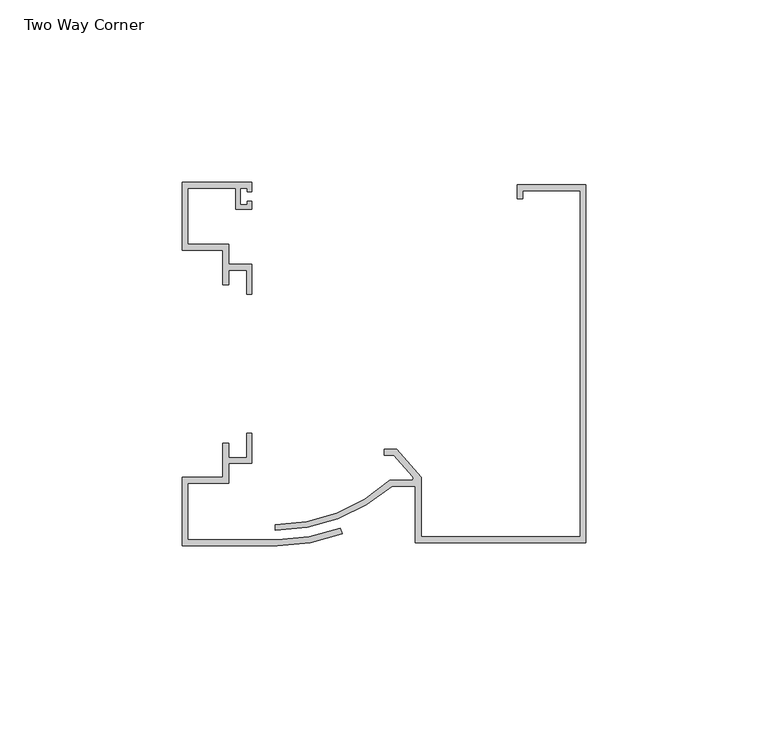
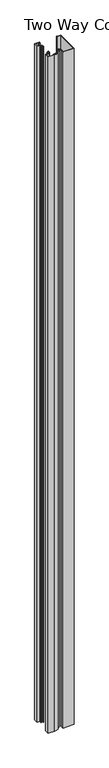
"""IFC4 building model written with IfcOpenShell, lengths in millimetres: proxy geometry, Connection-Variable_Angle-Teknion-Altos-Two_Way_FKCA2 : Two Way Corner."""

import ifcopenshell
import ifcopenshell.guid

model = None  # the IFC model being written
_history = None  # IfcOwnerHistory: only IFC2X3 demands one
_inside = {}  # id of a spatial element -> (the spatial element, [elements in it])
_under = {}  # id of a project, library or spatial element -> (it, [spatial elements below it])
_declared = {}  # id of a project -> (the project, [libraries it declares])
_typed = {}  # id of a type object -> (the type object, [elements of that type])
_made_of = {}  # id of a material, layer set ... -> (it, [elements and type objects made of it])


def new_model(schema):
    """Start an empty IFC model of exactly this schema.

    Asked for "IFC4X3", IfcOpenShell would pick the latest addendum, in which some entities
    have other attributes; the version numbers below select the first issue.
    IFC2X3 requires an IfcOwnerHistory on every rooted entity: one is made here for all.
    """
    global model, _history
    if schema == "IFC4X3":
        model = ifcopenshell.file(schema_version=(4, 3, 0, 0))
    else:
        model = ifcopenshell.file(schema=schema)
    _inside.clear()
    _under.clear()
    _declared.clear()
    _typed.clear()
    _made_of.clear()
    _history = None
    if model.schema == "IFC2X3":
        org = make("IfcOrganization", Name="unknown")
        user = make(
            "IfcPersonAndOrganization",
            ThePerson=make("IfcPerson", FamilyName="unknown"),
            TheOrganization=org,
        )
        app = make(
            "IfcApplication",
            ApplicationDeveloper=org,
            Version="unknown",
            ApplicationFullName="unknown",
            ApplicationIdentifier="unknown",
        )
        _history = make(
            "IfcOwnerHistory",
            OwningUser=user,
            OwningApplication=app,
            ChangeAction="ADDED",
            CreationDate=0,
        )
    return model


def make(cls, **values):
    """One entity of the class cls with the attributes given. An attribute that is None is left unset."""
    return model.create_entity(
        cls, **{name: value for name, value in values.items() if value is not None}
    )


def rooted(cls, **values):
    """An entity with a GlobalId (a new one), such as an element, a storey or a relation."""
    return make(cls, GlobalId=ifcopenshell.guid.new(), OwnerHistory=_history, **values)


def si_unit(unit_type, name, prefix=None):
    """IfcSIUnit, for example si_unit("LENGTHUNIT", "METRE", prefix="MILLI")."""
    return make("IfcSIUnit", UnitType=unit_type, Prefix=prefix, Name=name)


def assignment(units):
    """IfcUnitAssignment: the units of a project."""
    return None if units is None else make("IfcUnitAssignment", Units=units)


def point(xyz):
    """IfcCartesianPoint."""
    return None if xyz is None else make("IfcCartesianPoint", Coordinates=xyz)


def direction(xyz):
    """IfcDirection."""
    return None if xyz is None else make("IfcDirection", DirectionRatios=xyz)


def frame(location, z_axis=None, x_axis=None):
    """IfcAxis2Placement3D, a coordinate frame: its origin and axes. An axis left out is left unset."""
    return make(
        "IfcAxis2Placement3D",
        Location=point(location),
        Axis=direction(z_axis),
        RefDirection=direction(x_axis),
    )


def frame_2d(location, x_axis=None):
    """IfcAxis2Placement2D, a coordinate frame in the plane: its origin and x axis."""
    return make(
        "IfcAxis2Placement2D", Location=point(location), RefDirection=direction(x_axis)
    )


def origin():
    """The frame at (0, 0, 0) with its axes left unset."""
    return frame((0.0, 0.0, 0.0))


def origin_with_axes():
    """The frame at (0, 0, 0) with the z axis (0, 0, 1) and the x axis (1, 0, 0) written out."""
    return frame((0.0, 0.0, 0.0), z_axis=(0.0, 0.0, 1.0), x_axis=(1.0, 0.0, 0.0))


def place(relative_to, where):
    """IfcLocalPlacement: puts the frame where relative to a parent placement (None: the world)."""
    return make(
        "IfcLocalPlacement", PlacementRelTo=relative_to, RelativePlacement=where
    )


def context(
    kind, dimensions, precision=None, world=None, true_north=None, identifier=None
):
    """IfcGeometricRepresentationContext, for example the 3D "Model" context."""
    return make(
        "IfcGeometricRepresentationContext",
        ContextIdentifier=identifier,
        ContextType=kind,
        CoordinateSpaceDimension=dimensions,
        Precision=precision,
        WorldCoordinateSystem=world,
        TrueNorth=true_north,
    )


def project(units=None, contexts=None):
    """IfcProject with its units and contexts."""
    return rooted(
        "IfcProject",
        Name="project",
        RepresentationContexts=contexts,
        UnitsInContext=assignment(units),
    )


def spatial(cls, under=None, at=None, **own):
    """A site, building, storey or space (cls), placed at a placement, below another one or the project."""
    s = rooted(cls, ObjectPlacement=at, **own)
    if under is not None:
        _under.setdefault(under.id(), (under, []))[1].append(s)
    return s


def polyline(points):
    """IfcPolyline through the points."""
    return make("IfcPolyline", Points=[point(p) for p in points])


def circle_curve(where, radius):
    """IfcCircle in the frame where."""
    return make("IfcCircle", Position=where, Radius=radius)


def trimmed(basis, trim1, trim2, sense, master):
    """IfcTrimmedCurve: the piece of a basis curve between two trims."""
    return make(
        "IfcTrimmedCurve",
        BasisCurve=basis,
        Trim1=trim1,
        Trim2=trim2,
        SenseAgreement=sense,
        MasterRepresentation=master,
    )


def segment(curve, same_sense, transition):
    """IfcCompositeCurveSegment."""
    return make(
        "IfcCompositeCurveSegment",
        Transition=transition,
        SameSense=same_sense,
        ParentCurve=curve,
    )


def composite_curve(segments, self_intersect=None):
    """IfcCompositeCurve: segments joined end to end."""
    return make("IfcCompositeCurve", Segments=segments, SelfIntersect=self_intersect)


def outline(outer, holes=None, kind="AREA"):
    """IfcArbitraryClosedProfileDef: a profile drawn as a closed curve; with holes, ...WithVoids."""
    if holes is None:
        return make("IfcArbitraryClosedProfileDef", ProfileType=kind, OuterCurve=outer)
    return make(
        "IfcArbitraryProfileDefWithVoids",
        ProfileType=kind,
        OuterCurve=outer,
        InnerCurves=holes,
    )


def extrude(swept, where, along, depth):
    """IfcExtrudedAreaSolid: the profile swept, set in the frame where, extruded along a direction by depth."""
    return make(
        "IfcExtrudedAreaSolid",
        SweptArea=swept,
        Position=where,
        ExtrudedDirection=direction(along),
        Depth=depth,
    )


def shape(context_of_items, identifier, shape_type, items):
    """IfcShapeRepresentation: the items that make up one representation, for example the "Body"."""
    return make(
        "IfcShapeRepresentation",
        ContextOfItems=context_of_items,
        RepresentationIdentifier=identifier,
        RepresentationType=shape_type,
        Items=items,
    )


def source(mapping_origin, context_of_items, identifier, shape_type, items):
    """IfcRepresentationMap: a shape defined once, which mapped items show again and again."""
    return make(
        "IfcRepresentationMap",
        MappingOrigin=mapping_origin,
        MappedRepresentation=shape(context_of_items, identifier, shape_type, items),
    )


def transform(
    local_origin,
    x_axis=None,
    y_axis=None,
    z_axis=None,
    scale=None,
    scale2=None,
    scale3=None,
    uniform=True,
):
    """IfcCartesianTransformationOperator3D, or its non-uniform kind. x_axis, y_axis, z_axis: its Axis1, 2, 3."""
    if uniform:
        return make(
            "IfcCartesianTransformationOperator3D",
            Axis1=direction(x_axis),
            Axis2=direction(y_axis),
            LocalOrigin=point(local_origin),
            Scale=scale,
            Axis3=direction(z_axis),
        )
    return make(
        "IfcCartesianTransformationOperator3DnonUniform",
        Axis1=direction(x_axis),
        Axis2=direction(y_axis),
        LocalOrigin=point(local_origin),
        Scale=scale,
        Axis3=direction(z_axis),
        Scale2=scale2,
        Scale3=scale3,
    )


def mapped(mapping_source, mapping_target):
    """IfcMappedItem: shows the shape of a source again, moved by a transform."""
    return make(
        "IfcMappedItem", MappingSource=mapping_source, MappingTarget=mapping_target
    )


def made_of(thing, what):
    """Note that an element or type object is made of a material, layer set ...; save() writes the relation."""
    if what is not None:
        _made_of.setdefault(what.id(), (what, []))[1].append(thing)
    return thing


def element(
    cls,
    number,
    at=None,
    inside=None,
    cuts=None,
    type_object=None,
    material=None,
    context=None,
    identifier="Body",
    shape_type=None,
    held_by="IfcProductDefinitionShape",
    body=None,
    shapes=None,
    **own,
):
    """One element of the class cls, such as IfcWall. Its Tag is "e" and its number.

    at: its placement. inside: the storey or other place that contains it. cuts: it is an
    opening in that element (IfcRelVoidsElement). A single representation is given by context,
    identifier, shape_type and body (its items); several are given by shapes. held_by: the class
    of the entity that holds the representations. save() writes the other relations.
    """
    e = rooted(cls, Tag="e%d" % number, ObjectPlacement=at, **own)
    if body is not None:
        shapes = [shape(context, identifier, shape_type, body)]
    if shapes is not None:
        e.Representation = make(held_by, Representations=shapes)
    if inside is not None:
        _inside.setdefault(inside.id(), (inside, []))[1].append(e)
    if cuts is not None:
        rooted(
            "IfcRelVoidsElement", RelatingBuildingElement=cuts, RelatedOpeningElement=e
        )
    if type_object is not None:
        _typed.setdefault(type_object.id(), (type_object, []))[1].append(e)
    return made_of(e, material)


def aggregate(whole, parts):
    """IfcRelAggregates: a whole, such as a stair, and the parts it consists of."""
    return rooted("IfcRelAggregates", RelatingObject=whole, RelatedObjects=parts)


def save(model, path):
    """Write the relations noted so far, then the file.

    IfcRelAggregates (storeys below a building ...), IfcRelContainedInSpatialStructure (elements
    in a storey), IfcRelDefinesByType, IfcRelAssociatesMaterial and IfcRelDeclares: one each for
    every whole, place, type object, material and project.
    """
    for whole, parts in _under.values():
        aggregate(whole, parts)
    for where, things in _inside.values():
        rooted(
            "IfcRelContainedInSpatialStructure",
            RelatedElements=things,
            RelatingStructure=where,
        )
    for kind, things in _typed.values():
        rooted("IfcRelDefinesByType", RelatedObjects=things, RelatingType=kind)
    for what, things in _made_of.values():
        rooted("IfcRelAssociatesMaterial", RelatedObjects=things, RelatingMaterial=what)
    for by, libraries in _declared.values():
        rooted("IfcRelDeclares", RelatingContext=by, RelatedDefinitions=libraries)
    model.write(path)


def two_way_corner_a34cc39f(model_context):
    return source(origin(), model_context, "Body", "SweptSolid", [
        extrude(outline(polyline([(-61.1116069, 49.8912627), (-42.0110642, 49.8912627), (-42.0110642, 47.1611613), (-43.2460061, 47.1611613), (-43.2460061, 48.2141716), (-45.0661432, 48.2141716), (-45.0661432, 43.6709891), (-43.2460061, 43.6709891), (-43.2460061, 44.6728665), (-42.0110642, 44.6728665), (-42.0110642, 42.3552456), (-46.3067798, 42.3552456), (-46.3067798, 48.2141716), (-59.4750428, 48.2141716), (-59.4750428, 32.7350277), (-48.2938339, 32.7350277), (-48.2938339, 27.2946379), (-41.9553769, 27.2946379), (-41.9553769, 19.0146017), (-43.3822785, 19.0146017), (-43.3822785, 25.7172708), (-48.2938339, 25.7172708), (-48.2938339, 21.6970818), (-49.9459852, 21.6970818), (-49.9459852, 31.0961343), (-61.1116069, 31.0961343), (-61.1116069, 49.8912627)])), origin_with_axes(), (0.0, 0.0, 1.0), 3048.0),
        extrude(outline(composite_curve([segment(polyline([(-43.3822785, -25.8527772), (-43.3822785, -19.1505337), (-41.9553769, -19.1505337), (-41.9553769, -27.395779), (-48.2938339, -27.395779), (-48.2938339, -32.8685983), (-59.4750428, -32.8685983), (-59.4750428, -48.3759812), (-34.9674683, -48.3759812)]), True, "CONTINUOUS"), segment(trimmed(circle_curve(frame_2d((-34.9674683, 0.5195279)), 48.8955091), [point((-34.9674683, -48.3759812))], [point((-17.6430596, -45.2039417))], True, "CARTESIAN"), True, "CONTINUOUS"), segment(polyline([(-17.6430596, -45.2039417), (-17.0517054, -46.7229768)]), True, "CONTINUOUS"), segment(trimmed(circle_curve(frame_2d((-34.9606248, 0.6513768)), 50.6464093), [point((-17.0517054, -46.7229768))], [point((-34.9606248, -49.9950325))], False, "CARTESIAN"), True, "CONTINUOUS"), segment(polyline([(-34.9606248, -49.9950325), (-61.1116069, -49.9950325), (-61.1116069, -31.1865632), (-49.9459852, -31.1865632), (-49.9459852, -21.8485708), (-48.2938339, -21.8485708), (-48.2938339, -25.8527772), (-43.3822785, -25.8527772)]), True, "CONTINUOUS")], self_intersect=False)), origin_with_axes(), (0.0, 0.0, 1.0), 3048.0),
        extrude(outline(composite_curve([segment(polyline([(3.0026577, -49.1821681), (3.0026577, -33.6200421), (-3.4254202, -33.6200421)]), True, "CONTINUOUS"), segment(trimmed(circle_curve(frame_2d((-35.8348295, 3.3436262)), 49.1597659), [point((-3.4254202, -33.6200421))], [point((-35.4838488, -45.8148868))], False, "CARTESIAN"), True, "CONTINUOUS"), segment(polyline([(-35.4838488, -45.8148868), (-35.4838488, -44.2908467)]), True, "CONTINUOUS"), segment(trimmed(circle_curve(frame_2d((-35.8348295, 3.3436262)), 47.6357659), [point((-35.4838488, -44.2908467))], [point((-4.004088, -32.0960421))], True, "CARTESIAN"), True, "CONTINUOUS"), segment(polyline([(-4.004088, -32.0960421), (1.8080014, -32.0960421)]), True, "CONTINUOUS"), segment(trimmed(circle_curve(frame_2d((1.8080014, -31.4846376)), 0.6114044), [point((1.8080014, -32.0960421))], [point((2.2641851, -31.0775605))], True, "CARTESIAN"), True, "CONTINUOUS"), segment(polyline([(2.2641851, -31.0775605), (-3.0145087, -25.1620869), (-5.4992191, -25.1620869), (-5.4992191, -23.5549676), (-2.1828536, -23.5549676), (4.6258764, -31.1850488), (4.6258764, -47.5589493), (48.2356394, -47.5589493), (48.2356394, 47.5589493), (32.5366889, 47.5589493), (32.5366889, 45.3579014), (30.9134701, 45.3579014), (30.9134701, 49.1821681), (49.8588581, 49.1821681), (49.8588581, -49.1821681), (3.0026577, -49.1821681)]), True, "CONTINUOUS")], self_intersect=False)), origin_with_axes(), (0.0, 0.0, 1.0), 3048.0),
    ])


if __name__ == "__main__":
    model = new_model("IFC4")
    model_context = context("Model", 3, world=origin())
    ifc_project = project(units=[si_unit("LENGTHUNIT", "METRE", prefix="MILLI")], contexts=[model_context])
    site = spatial("IfcSite", under=ifc_project)
    building = spatial("IfcBuilding", under=site)
    placement = place(None, origin())
    two_way_corner_shape = two_way_corner_a34cc39f(model_context)
    element("IfcBuildingElementProxy", 1, Name="Connection-Variable_Angle-Teknion-Altos-Two_Way_FKCA2 : Two Way Corner", ObjectType="Connection-Variable_Angle-Teknion-Altos-Two_Way_FKCA2 : Two Way Corner", at=placement, inside=building, context=model_context, shape_type="MappedRepresentation", body=[
        mapped(two_way_corner_shape, transform((0.0, 0.0, 0.0), x_axis=(1.0, 0.0, 0.0), y_axis=(0.0, 1.0, 0.0), z_axis=(0.0, 0.0, 1.0))),
    ])
    save(model, "model.ifc")
